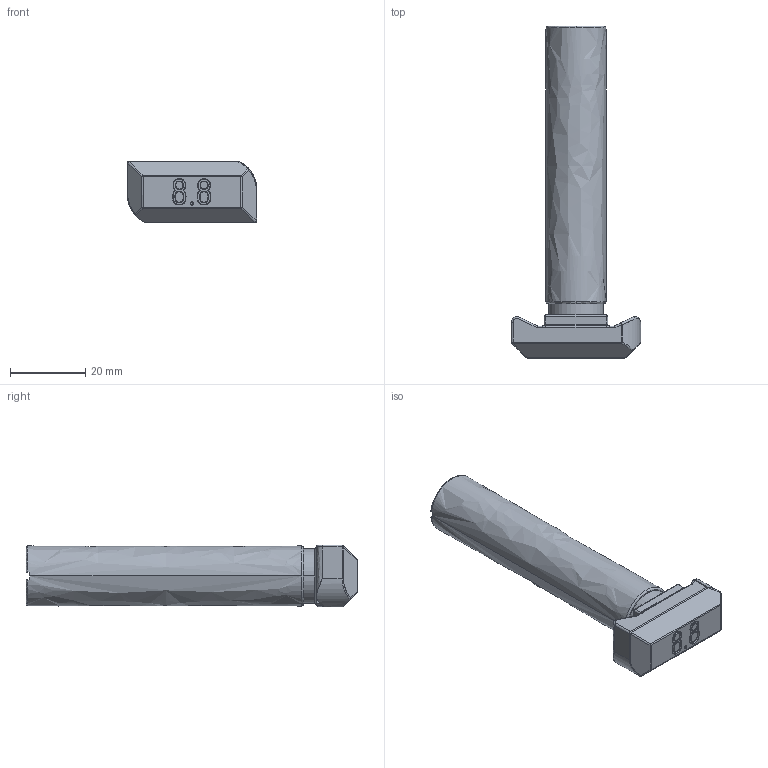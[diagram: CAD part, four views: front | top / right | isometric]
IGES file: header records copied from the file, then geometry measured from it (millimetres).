
Start section: 3D InterOp IGES (v. 2019 1.0.2), Spatial Corp. Copyright (c) 1999-2017.
Global section: file name: TPH1680.igs; native system: Spatial Corp.; preprocessor: 3D InterOp GENERIC/IGES 3.0; author: Noname; organization: Noname; date: 20210225.084351; units: millimetre
Bounding box: 34.5 x 88.5 x 16.5 mm (x, y, z)
Surface area: 5895.3 mm2 (no closed solid volume)
Topology: 0 solids, 0 shells, 179 faces, 947 edges, 936 vertices
Faces by surface type: bspline 83, revolution 64, extrusion 32
